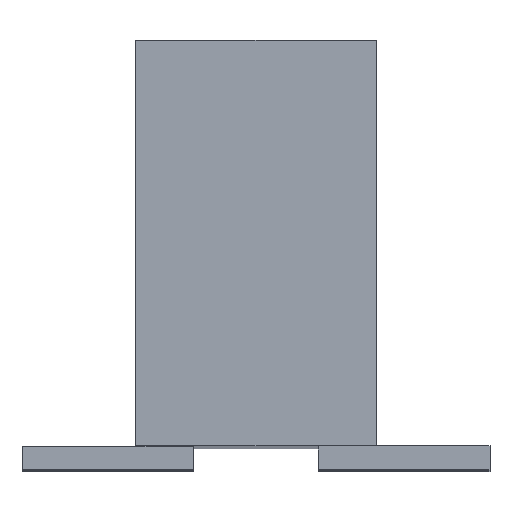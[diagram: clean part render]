
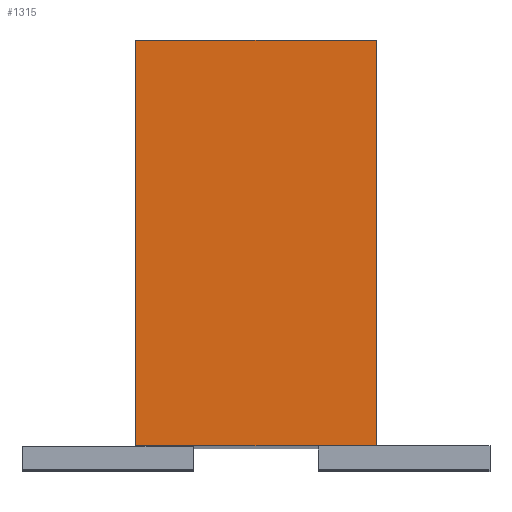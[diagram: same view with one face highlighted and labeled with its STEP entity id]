
A CAD part, top view. The second image highlights one B-rep face of the part: STEP entity #1315.
In plain terms, the highlighted planar face has unit normal (0, 0, 1).
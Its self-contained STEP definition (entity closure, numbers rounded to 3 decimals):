
#106=DIRECTION('',(1.,0.,0.));
#107=VECTOR('',#106,1.54);
#108=CARTESIAN_POINT('',(-0.77,0.,5.4));
#109=LINE('',#108,#107);
#226=DIRECTION('',(0.,1.,0.));
#227=VECTOR('',#226,2.6);
#228=CARTESIAN_POINT('',(0.77,0.,5.4));
#229=LINE('',#228,#227);
#346=DIRECTION('',(1.,0.,0.));
#347=VECTOR('',#346,1.54);
#348=CARTESIAN_POINT('',(-0.77,2.6,5.4));
#349=LINE('',#348,#347);
#362=DIRECTION('',(0.,1.,0.));
#363=VECTOR('',#362,2.6);
#364=CARTESIAN_POINT('',(-0.77,0.,5.4));
#365=LINE('',#364,#363);
#690=CARTESIAN_POINT('',(-0.77,0.,5.4));
#691=CARTESIAN_POINT('',(0.77,0.,5.4));
#692=VERTEX_POINT('',#690);
#693=VERTEX_POINT('',#691);
#698=CARTESIAN_POINT('',(-0.77,2.6,5.4));
#699=CARTESIAN_POINT('',(0.77,2.6,5.4));
#700=VERTEX_POINT('',#698);
#701=VERTEX_POINT('',#699);
#1304=CARTESIAN_POINT('',(-0.77,0.,5.4));
#1305=DIRECTION('',(0.,0.,1.));
#1306=DIRECTION('',(1.,0.,0.));
#1307=AXIS2_PLACEMENT_3D('',#1304,#1305,#1306);
#1308=PLANE('',#1307);
#1309=ORIENTED_EDGE('',*,*,#963,.F.);
#1310=ORIENTED_EDGE('',*,*,#1261,.T.);
#1311=ORIENTED_EDGE('',*,*,#1296,.T.);
#1312=ORIENTED_EDGE('',*,*,#1069,.F.);
#1313=EDGE_LOOP('',(#1309,#1310,#1311,#1312));
#1314=FACE_OUTER_BOUND('',#1313,.F.);
#1315=ADVANCED_FACE('',(#1314),#1308,.T.);
#963=EDGE_CURVE('',#692,#693,#109,.T.);
#1069=EDGE_CURVE('',#693,#701,#229,.T.);
#1261=EDGE_CURVE('',#692,#700,#365,.T.);
#1296=EDGE_CURVE('',#700,#701,#349,.T.);
